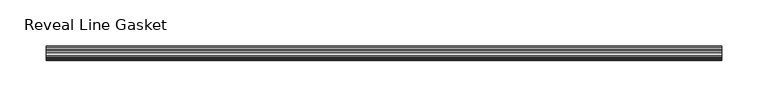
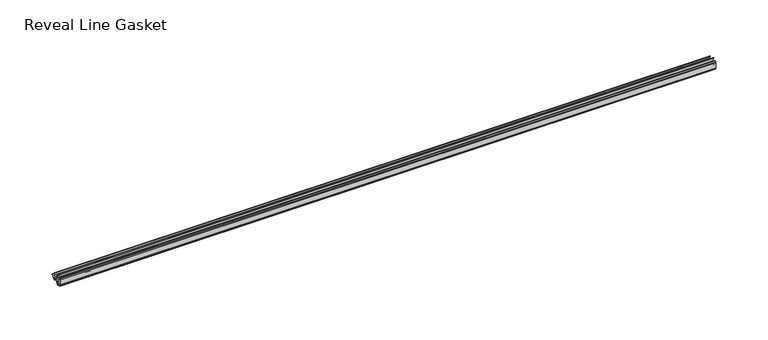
"""IFC4 building model written with IfcOpenShell, lengths in millimetres: proxy geometry, Accessories-Teknion-FHGR-AI_Healthcare-Reveal_Line_Gasket(Horizontal)-R2022 : Reveal Line Gasket."""

from ifc_helpers import new_model, si_unit, point, frame, frame_2d, origin, place, context, project, spatial, polyline, circle_curve, trimmed, segment, composite_curve, outline, extrude, source, transform, mapped, element, save


def reveal_line_gasket_b4e3761f(model_context):
    return source(origin(), model_context, "Body", "SweptSolid", [
        extrude(outline(composite_curve([segment(polyline([(-7.6326998, 1603.2), (-7.4091917, 1604.1554927), (-6.8813059, 1605.0884684)]), True, "CONTINUOUS"), segment(trimmed(circle_curve(frame_2d((-6.5243141, 1604.8864793)), 0.4101739), [point((-6.8813059, 1605.0884684))], [point((-6.1246704, 1604.7941347))], False, "CARTESIAN"), True, "CONTINUOUS"), segment(polyline([(-6.1246704, 1604.7941347), (-6.3626997, 1603.0979086), (-6.3626997, 1601.0654527)]), True, "CONTINUOUS"), segment(trimmed(circle_curve(frame_2d((-5.6959605, 1601.4819258)), 0.786124), [point((-6.3626997, 1601.0654527))], [point((-5.0926996, 1600.977875))], True, "CARTESIAN"), True, "CONTINUOUS"), segment(polyline([(-5.0926996, 1600.977875), (-0.7492996, 1600.977875), (-3.7293824, 1606.1395295)]), True, "CONTINUOUS"), segment(trimmed(circle_curve(frame_2d((-3.3132479, 1606.2049761)), 0.4212495), [point((-3.7293824, 1606.1395295))], [point((-3.0485022, 1606.5326358))], False, "CARTESIAN"), True, "CONTINUOUS"), segment(polyline([(-3.0485022, 1606.5326358), (0.5742594, 1600.977875), (4.8262978, 1600.977875), (3.1660374, 1603.8535297)]), True, "CONTINUOUS"), segment(trimmed(circle_curve(frame_2d((3.5978728, 1603.9118855)), 0.4357605), [point((3.1660374, 1603.8535297))], [point((3.864328, 1604.2566881))], False, "CARTESIAN"), True, "CONTINUOUS"), segment(polyline([(3.864328, 1604.2566881), (6.1944059, 1600.977875), (7.6326998, 1600.977875), (7.6326998, 1599.422125), (6.1944059, 1599.422125), (3.864328, 1596.1433119)]), True, "CONTINUOUS"), segment(trimmed(circle_curve(frame_2d((3.5978728, 1596.4881145)), 0.4357605), [point((3.864328, 1596.1433119))], [point((3.1660374, 1596.5464703))], False, "CARTESIAN"), True, "CONTINUOUS"), segment(polyline([(3.1660374, 1596.5464703), (4.8262978, 1599.422125), (0.5742594, 1599.422125), (-3.0485022, 1593.8673642)]), True, "CONTINUOUS"), segment(trimmed(circle_curve(frame_2d((-3.3132479, 1594.1950239)), 0.4212495), [point((-3.0485022, 1593.8673642))], [point((-3.7293824, 1594.2604705))], False, "CARTESIAN"), True, "CONTINUOUS"), segment(polyline([(-3.7293824, 1594.2604705), (-0.7492996, 1599.422125), (-5.0926996, 1599.422125)]), True, "CONTINUOUS"), segment(trimmed(circle_curve(frame_2d((-5.6959605, 1598.9180742)), 0.786124), [point((-5.0926996, 1599.422125))], [point((-6.3626997, 1599.3345473))], True, "CARTESIAN"), True, "CONTINUOUS"), segment(polyline([(-6.3626997, 1599.3345473), (-6.3626997, 1597.3020914), (-6.1246704, 1595.6058653)]), True, "CONTINUOUS"), segment(trimmed(circle_curve(frame_2d((-6.5243141, 1595.5135207)), 0.4101739), [point((-6.1246704, 1595.6058653))], [point((-6.8813059, 1595.3115316))], False, "CARTESIAN"), True, "CONTINUOUS"), segment(polyline([(-6.8813059, 1595.3115316), (-7.4091917, 1596.2445073), (-7.6326998, 1597.2), (-7.6326998, 1603.2)]), True, "CONTINUOUS")], self_intersect=False)), frame((-363.2454, 0.0, 0.0), z_axis=(1.0, 0.0, 0.0), x_axis=(0.0, 1.0, 0.0)), (0.0, 0.0, 1.0), 726.4908),
    ])


if __name__ == "__main__":
    model = new_model("IFC4")
    model_context = context("Model", 3, world=origin())
    ifc_project = project(units=[si_unit("LENGTHUNIT", "METRE", prefix="MILLI")], contexts=[model_context])
    site = spatial("IfcSite", under=ifc_project)
    building = spatial("IfcBuilding", under=site)
    placement = place(None, origin())
    reveal_line_gasket_shape = reveal_line_gasket_b4e3761f(model_context)
    element("IfcBuildingElementProxy", 1, Name="Accessories-Teknion-FHGR-AI_Healthcare-Reveal_Line_Gasket(Horizontal)-R2022 : Reveal Line Gasket", ObjectType="Accessories-Teknion-FHGR-AI_Healthcare-Reveal_Line_Gasket(Horizontal)-R2022 : Reveal Line Gasket", at=placement, inside=building, context=model_context, shape_type="MappedRepresentation", body=[
        mapped(reveal_line_gasket_shape, transform((0.0, 0.0, 0.0), x_axis=(1.0, 0.0, 0.0), y_axis=(0.0, 1.0, 0.0), z_axis=(0.0, 0.0, 1.0))),
    ])
    save(model, "model.ifc")
